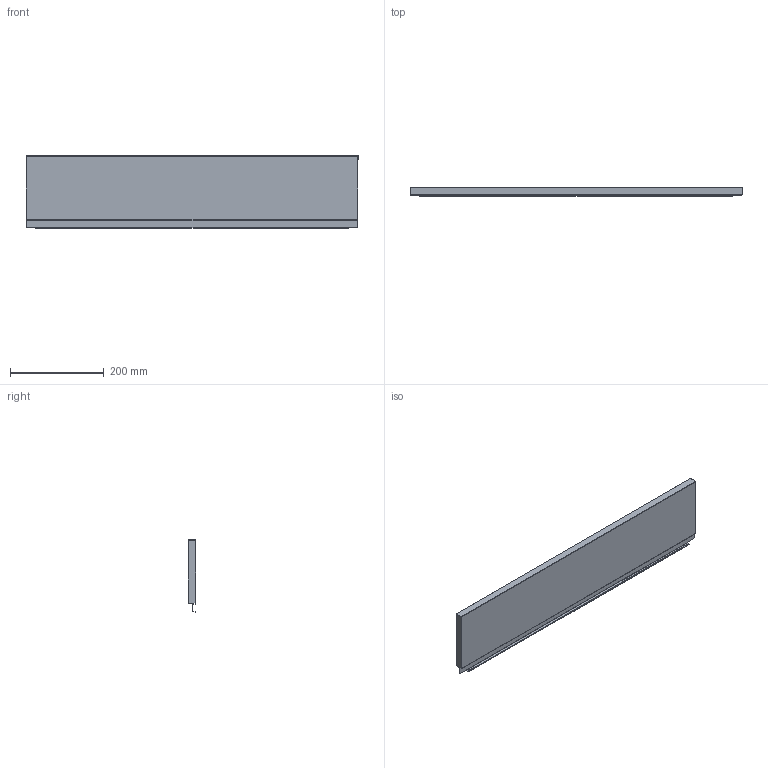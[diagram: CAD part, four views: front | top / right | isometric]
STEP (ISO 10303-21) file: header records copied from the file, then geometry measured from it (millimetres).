
FILE_DESCRIPTION (( 'STEP AP214' ), '1' );
FILE_NAME ('_STRW_H154_KAB_800.step', '2010-08-24T14:40:38', ( 'grass' ), ( '' ), 'SwSTEP 2.0', 'SolidWorks 2009', '' );
FILE_SCHEMA (( 'AUTOMOTIVE_DESIGN' ));
Length unit declared in the file: millimetre
Products named in the file (1): _STRW_H154_KAB_800
Bounding box: 710 x 17 x 154.14 mm (x, y, z)
Volume: 106875 mm3; surface area: 268691.7 mm2
Topology: 1 solids, 1 shells, 76 faces, 214 edges, 140 vertices
Faces by surface type: plane 54, cylinder 22
Entity records: 2472 total; most frequent: CARTESIAN_POINT 431, ORIENTED_EDGE 428, DIRECTION 412, EDGE_CURVE 214, LINE 170, VECTOR 170, VERTEX_POINT 140, AXIS2_PLACEMENT_3D 121
